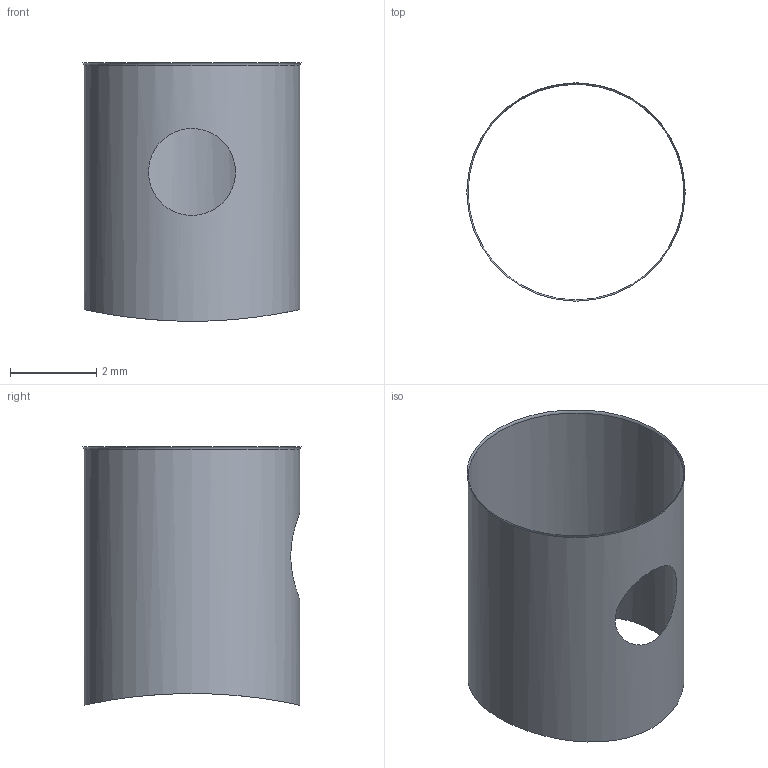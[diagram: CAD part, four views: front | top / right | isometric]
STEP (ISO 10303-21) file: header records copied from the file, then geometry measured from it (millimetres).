
FILE_DESCRIPTION(('BRL-CAD focused geometric regression fixture'),'2;1');
FILE_NAME('contractible_periodic_neighbor','2026-07-25T00:00:00',('BRL-CAD'),('BRL-CAD'),'','','');
FILE_SCHEMA(('AUTOMOTIVE_DESIGN { 1 0 10303 214 3 1 1 1 }'));
Length unit declared in the file: millimetre
Products named in the file (1): contractible_periodic_neighbor
Bounding box: 5.06 x 5.06 x 5.99 mm (x, y, z)
Surface area: 88.8 mm2 (no closed solid volume)
Topology: 0 solids, 1 shells, 2 faces, 7 edges, 5 vertices
Faces by surface type: cylinder 1, torus 1
Full cylindrical faces by diameter (mm): 5 x1
Entity records: 114 total; most frequent: CARTESIAN_POINT 58, DIRECTION 8, EDGE_LOOP 5, ORIENTED_EDGE 5, VERTEX_POINT 4, EDGE_CURVE 4, AXIS2_PLACEMENT_3D 4, FACE_BOUND 3
